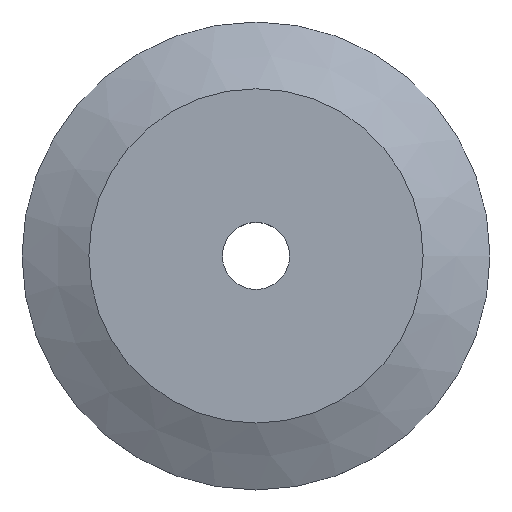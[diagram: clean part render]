
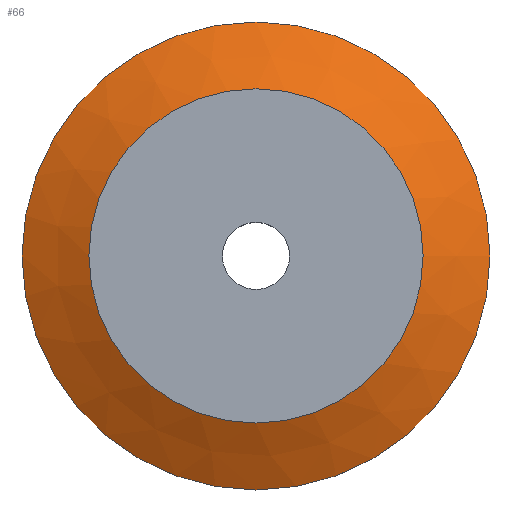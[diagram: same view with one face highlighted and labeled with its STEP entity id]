
A CAD part, top view. The second image highlights one B-rep face of the part: STEP entity #66.
In plain terms, the highlighted conical face has half-angle 63.435 degrees and reference radius 10 mm.
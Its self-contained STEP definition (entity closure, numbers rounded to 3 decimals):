
#12=CONICAL_SURFACE('',#89,10.,1.107);
#23=ORIENTED_EDGE('',*,*,#25,.F.);
#24=ORIENTED_EDGE('',*,*,#29,.F.);
#25=EDGE_CURVE('',#30,#30,#35,.F.);
#29=EDGE_CURVE('',#34,#34,#39,.T.);
#30=VERTEX_POINT('',#115);
#34=VERTEX_POINT('',#125);
#35=CIRCLE('',#81,14.);
#39=CIRCLE('',#87,10.);
#48=EDGE_LOOP('',(#23));
#49=EDGE_LOOP('',(#24));
#58=FACE_BOUND('',#48,.T.);
#59=FACE_BOUND('',#49,.T.);
#66=ADVANCED_FACE('',(#58,#59),#12,.T.);
#81=AXIS2_PLACEMENT_3D('',#114,#94,#95);
#87=AXIS2_PLACEMENT_3D('',#124,#106,#107);
#89=AXIS2_PLACEMENT_3D('',#127,#110,#111);
#94=DIRECTION('',(0.,0.,1.));
#95=DIRECTION('',(1.,0.,0.));
#106=DIRECTION('',(0.,0.,1.));
#107=DIRECTION('',(1.,0.,0.));
#110=DIRECTION('',(0.,0.,-1.));
#111=DIRECTION('',(-1.,0.,0.));
#114=CARTESIAN_POINT('',(0.,0.,1.));
#115=CARTESIAN_POINT('',(14.,0.,1.));
#124=CARTESIAN_POINT('',(0.,0.,3.));
#125=CARTESIAN_POINT('',(10.,0.,3.));
#127=CARTESIAN_POINT('',(0.,0.,3.));
